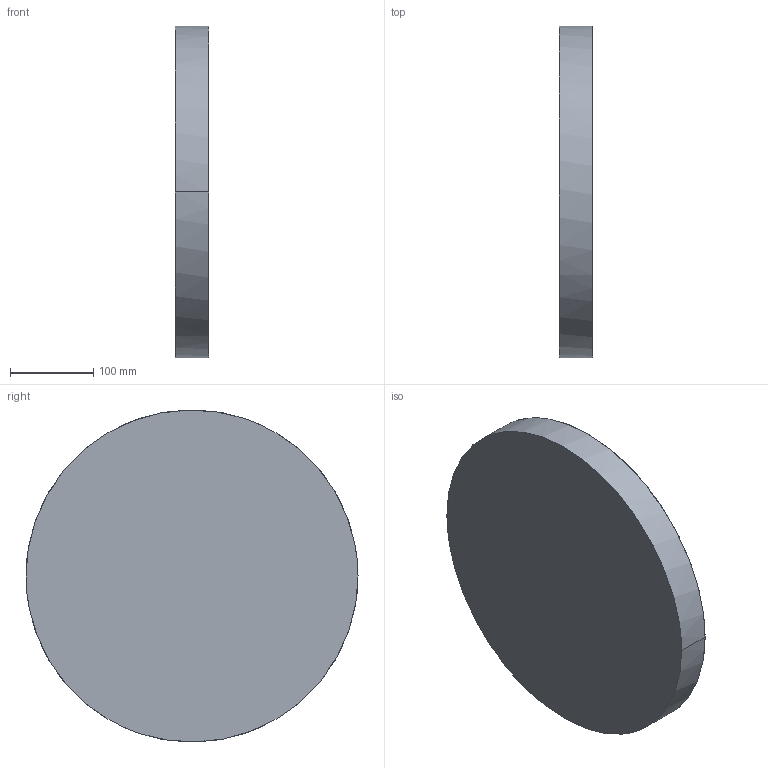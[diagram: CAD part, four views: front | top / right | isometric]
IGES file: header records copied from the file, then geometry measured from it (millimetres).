
Start section: This line is the first line of the start section. You can replacexxxxxxy these line and add as many as you want
Global section: file name: /usr2/plg/parts/_bcd/aa.iges; native system: COMPUTERVISION CADDS5 REV 5.0 GRAPHIC SYSTEM; preprocessor: CV Translator Products, Revision 1.1.3 PATCH; author: Author; organization: Organization; date: 950612.132524; units: millimetre
Bounding box: 40 x 400 x 399.94 mm (x, y, z)
Surface area: 301634.4 mm2 (no closed solid volume)
Topology: 0 solids, 0 shells, 4 faces, 28 edges, 28 vertices
Faces by surface type: bspline 4
